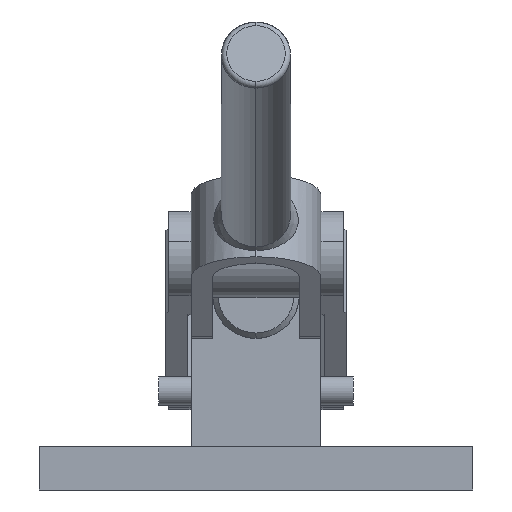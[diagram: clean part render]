
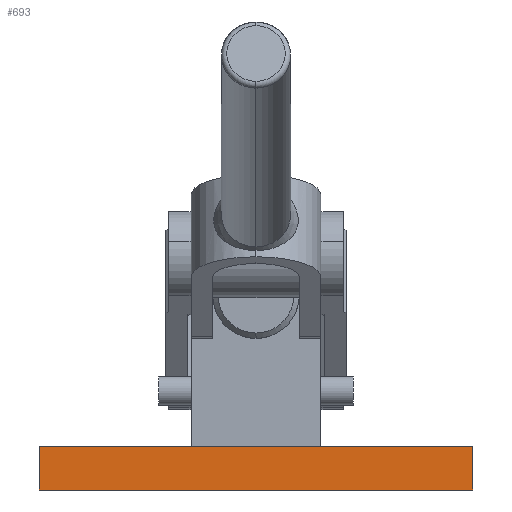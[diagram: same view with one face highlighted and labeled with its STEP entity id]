
A CAD part, left-side view. The second image highlights one B-rep face of the part: STEP entity #693.
In plain terms, the highlighted planar face has unit normal (-1, 0, 0).
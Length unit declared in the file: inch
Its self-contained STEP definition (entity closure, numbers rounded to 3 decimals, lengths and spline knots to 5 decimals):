
#693 = ADVANCED_FACE( '', ( #889 ), #890, .T. );
#889 = FACE_OUTER_BOUND( '', #1202, .T. );
#890 = PLANE( '', #1203 );
#1202 = EDGE_LOOP( '', ( #1784, #1785, #1786, #1787 ) );
#1203 = AXIS2_PLACEMENT_3D( '', #1788, #1789, #1790 );
#1784 = ORIENTED_EDGE( '', *, *, #2744, .F. );
#1785 = ORIENTED_EDGE( '', *, *, #2745, .T. );
#1786 = ORIENTED_EDGE( '', *, *, #2746, .T. );
#1787 = ORIENTED_EDGE( '', *, *, #2730, .F. );
#1788 = CARTESIAN_POINT( '', ( -1.75, 1.25, -0.25 ) );
#1789 = DIRECTION( '', ( -1., 0., 0. ) );
#1790 = DIRECTION( '', ( 0., 0., 1. ) );
#2730 = EDGE_CURVE( '', #3188, #3190, #3191, .T. );
#2744 = EDGE_CURVE( '', #3211, #3188, #3213, .T. );
#2745 = EDGE_CURVE( '', #3211, #3214, #3215, .T. );
#2746 = EDGE_CURVE( '', #3214, #3190, #3216, .T. );
#3188 = VERTEX_POINT( '', #3941 );
#3190 = VERTEX_POINT( '', #3944 );
#3191 = LINE( '', #3945, #3946 );
#3211 = VERTEX_POINT( '', #3978 );
#3213 = LINE( '', #3981, #3982 );
#3214 = VERTEX_POINT( '', #3983 );
#3215 = LINE( '', #3984, #3985 );
#3216 = LINE( '', #3986, #3987 );
#3941 = CARTESIAN_POINT( '', ( -1.75, -1.25, -0.25 ) );
#3944 = CARTESIAN_POINT( '', ( -1.75, 1.25, -0.25 ) );
#3945 = CARTESIAN_POINT( '', ( -1.75, -1.25, -0.25 ) );
#3946 = VECTOR( '', #4860, 1. );
#3978 = CARTESIAN_POINT( '', ( -1.75, -1.25, 0. ) );
#3981 = CARTESIAN_POINT( '', ( -1.75, -1.25, 0. ) );
#3982 = VECTOR( '', #4874, 1. );
#3983 = CARTESIAN_POINT( '', ( -1.75, 1.25, 0. ) );
#3984 = CARTESIAN_POINT( '', ( -1.75, -1.25, 0. ) );
#3985 = VECTOR( '', #4875, 1. );
#3986 = CARTESIAN_POINT( '', ( -1.75, 1.25, 0. ) );
#3987 = VECTOR( '', #4876, 1. );
#4860 = DIRECTION( '', ( 0., 1., 0. ) );
#4874 = DIRECTION( '', ( 0., 0., -1. ) );
#4875 = DIRECTION( '', ( 0., 1., 0. ) );
#4876 = DIRECTION( '', ( 0., 0., -1. ) );
